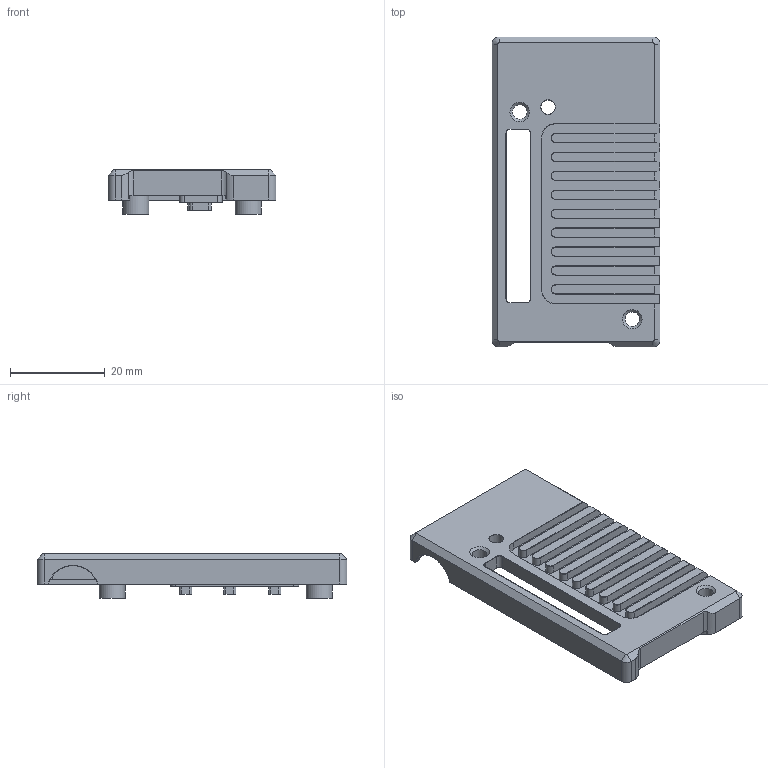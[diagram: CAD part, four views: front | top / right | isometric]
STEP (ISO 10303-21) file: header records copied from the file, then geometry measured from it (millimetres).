
FILE_DESCRIPTION(/* description */ (''),/* implementation_level */ '2;1');
FILE_NAME(/* name */ 'C:/Users/Андрей/Desktop/CAN DRV heatsink_files/for OLD CAN DRV/Cover.step',/* time_stamp */ '2022-03-01T19:12:10+03:00',/* author */ (''),/* organization */ (''),/* preprocessor_version */ 'ST-DEVELOPER v18.1',/* originating_system */ 'Autodesk Translation Framework v10.13.0.1454',/* authorisation */ '');
FILE_SCHEMA (('AUTOMOTIVE_DESIGN { 1 0 10303 214 3 1 1 }'));
Length unit declared in the file: millimetre
Products named in the file (1): Корпус теплоотвод 
для CAN DRV_1.0.6 ver
Bounding box: 35.5 x 65.5 x 9.5 mm (x, y, z)
Volume: 7420.9 mm3; surface area: 7625.3 mm2
Topology: 1 solids, 1 shells, 310 faces, 798 edges, 494 vertices
Faces by surface type: plane 172, cylinder 72, cone 62, bspline 4
Full cylindrical faces by diameter (mm): 3 x1, 3.1 x2, 5.5 x2
Entity records: 9396 total; most frequent: CARTESIAN_POINT 1712, DIRECTION 1613, ORIENTED_EDGE 1596, EDGE_CURVE 798, LINE 563, VECTOR 563, AXIS2_PLACEMENT_3D 525, VERTEX_POINT 494
